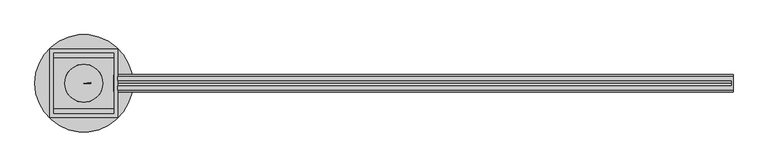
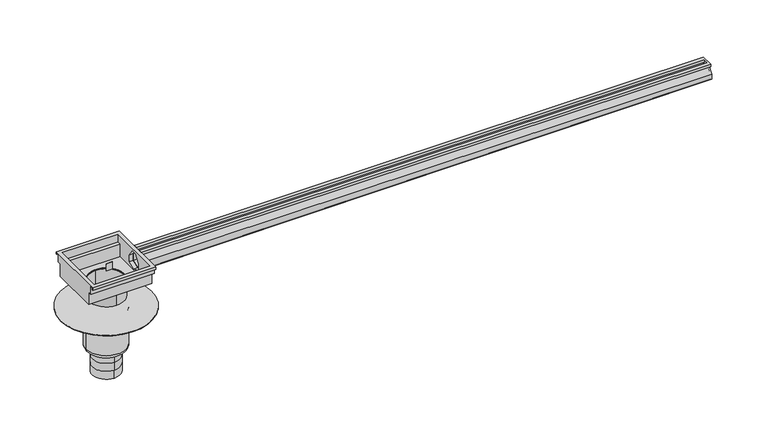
"""IFC4 building model written with IfcOpenShell, lengths in millimetres: sanitary terminal geometry, PF_SS_WPB_Modul 20 : End outlet with vertical siphon box."""

from ifc_helpers import new_model, si_unit, point, frame, frame_2d, origin, origin_2d, place, context, project, spatial, polyline, circle_curve, ellipse_curve, trimmed, segment, composite_curve, outline, extrude, faceted_brep, source, transform, mapped, element, save
from ifc_brep_helpers import plane_surface, cylinder_surface, revolved_surface, advanced_brep


def sanitary_terminal_ecf56019(model_context):
    return source(origin(), model_context, "Body", "SolidModel", [
        advanced_brep(
        [(0.0, 55.0, -464.0), (0.0, -55.0, -464.0), (0.0, 55.0, -431.0), (0.0, -55.0, -431.0), (0.0, 55.0, -398.0), (0.0, -55.0, -398.0), (0.0, -55.0, -365.0), (-55.0, 0.0, -365.0), (0.0, 55.0, -365.0), (55.0, 0.0, -365.0), (-78.5, 0.0, -348.5), (78.5, 0.0, -348.5), (78.5, 0.0, -196.0), (-78.5, 0.0, -196.0), (-62.0, 0.0, -365.0), (62.0, 0.0, -365.0), (179.0, 0.0, -196.0), (-179.0, 0.0, -196.0), (179.0, 0.0, -194.0), (-179.0, 0.0, -194.0)],
        [
            (0, 1, circle_curve(frame((0.0, 0.0, -464.0), z_axis=(0.0, 0.0, -1.0), x_axis=(0.0, -1.0, 0.0)), 55.0)),
            (1, 0, circle_curve(frame((0.0, 0.0, -464.0), z_axis=(0.0, 0.0, -1.0), x_axis=(0.0, -1.0, 0.0)), 55.0)),
            (0, 2),
            (2, 3, circle_curve(frame((0.0, 0.0, -431.0), z_axis=(0.0, 0.0, -1.0), x_axis=(0.0, -1.0, 0.0)), 55.0)),
            (3, 1),
            (3, 2, circle_curve(frame((0.0, 0.0, -431.0), z_axis=(0.0, 0.0, -1.0), x_axis=(0.0, -1.0, 0.0)), 55.0)),
            (4, 2),
            (3, 5),
            (5, 4, circle_curve(frame((0.0, 0.0, -398.0), z_axis=(0.0, 0.0, -1.0), x_axis=(-1.0, 0.0, 0.0)), 55.0)),
            (4, 5, circle_curve(frame((0.0, 0.0, -398.0), z_axis=(0.0, 0.0, -1.0), x_axis=(1.0, 0.0, 0.0)), 55.0)),
            (5, 6),
            (6, 7, circle_curve(frame((0.0, 0.0, -365.0), z_axis=(0.0, 0.0, -1.0), x_axis=(0.0, -1.0, 0.0)), 55.0)),
            (7, 8, circle_curve(frame((0.0, 0.0, -365.0), z_axis=(0.0, 0.0, -1.0), x_axis=(0.0, -1.0, 0.0)), 55.0)),
            (8, 4),
            (8, 9, circle_curve(frame((0.0, 0.0, -365.0), z_axis=(0.0, 0.0, -1.0), x_axis=(0.0, -1.0, 0.0)), 55.0)),
            (9, 6, circle_curve(frame((0.0, 0.0, -365.0), z_axis=(0.0, 0.0, -1.0), x_axis=(0.0, -1.0, 0.0)), 55.0)),
            (10, 11, circle_curve(frame((0.0, 0.0, -348.5), z_axis=(0.0, 0.0, 1.0), x_axis=(1.0, 0.0, 0.0)), 78.5)),
            (11, 12),
            (12, 13, circle_curve(frame((0.0, 0.0, -196.0), z_axis=(0.0, 0.0, -1.0), x_axis=(1.0, 0.0, 0.0)), 78.5)),
            (13, 10),
            (11, 10, circle_curve(frame((0.0, 0.0, -348.5), z_axis=(0.0, 0.0, 1.0), x_axis=(1.0, 0.0, 0.0)), 78.5)),
            (13, 12, circle_curve(frame((0.0, 0.0, -196.0), z_axis=(0.0, 0.0, -1.0), x_axis=(1.0, 0.0, 0.0)), 78.5)),
            (10, 14, circle_curve(frame((-62.0, 0.0, -348.5), z_axis=(0.0, -1.0, 0.0), x_axis=(1.0, 0.0, 0.0)), 16.5)),
            (14, 15, circle_curve(frame((0.0, 0.0, -365.0), z_axis=(0.0, 0.0, 1.0), x_axis=(1.0, 0.0, 0.0)), 62.0)),
            (15, 11, circle_curve(frame((62.0, 0.0, -348.5), z_axis=(0.0, -1.0, 0.0), x_axis=(-1.0, 0.0, 0.0)), 16.5)),
            (15, 14, circle_curve(frame((0.0, 0.0, -365.0), z_axis=(0.0, 0.0, 1.0), x_axis=(1.0, 0.0, 0.0)), 62.0)),
            (14, 7),
            (9, 15),
            (16, 17, circle_curve(frame((0.0, 0.0, -196.0), z_axis=(0.0, 0.0, -1.0), x_axis=(-1.0, 0.0, 0.0)), 179.0)),
            (17, 16, circle_curve(frame((0.0, 0.0, -196.0), z_axis=(0.0, 0.0, -1.0), x_axis=(-1.0, 0.0, 0.0)), 179.0)),
            (18, 19, circle_curve(frame((0.0, 0.0, -194.0), z_axis=(0.0, 0.0, 1.0), x_axis=(-1.0, 0.0, 0.0)), 179.0)),
            (19, 18, circle_curve(frame((0.0, 0.0, -194.0), z_axis=(0.0, 0.0, 1.0), x_axis=(-1.0, 0.0, 0.0)), 179.0)),
            (17, 19),
            (18, 16),
        ],
        [
            plane_surface(frame((0.0, -55.0, -464.0), z_axis=(0.0, 0.0, -1.0), x_axis=(-1.0, 0.0, 0.0))),
            cylinder_surface(frame((0.0, 0.0, -431.0), z_axis=(0.0, 0.0, -1.0), x_axis=(0.0, -1.0, 0.0)), 55.0),
            cylinder_surface(frame((0.0, 0.0, -398.0), z_axis=(0.0, 0.0, -1.0), x_axis=(-1.0, 0.0, 0.0)), 55.0),
            cylinder_surface(frame((0.0, 0.0, -398.0), z_axis=(0.0, 0.0, -1.0), x_axis=(1.0, 0.0, 0.0)), 55.0),
            cylinder_surface(frame((0.0, 0.0, -365.0), z_axis=(0.0, 0.0, -1.0), x_axis=(0.0, -1.0, 0.0)), 55.0),
            cylinder_surface(frame((0.0, 0.0, -134.0), z_axis=(0.0, 0.0, -1.0), x_axis=(1.0, 0.0, 0.0)), 78.5),
            revolved_surface(trimmed(ellipse_curve(frame((62.0, 0.0, -348.5), z_axis=(0.0, 1.0, 0.0), x_axis=(-1.0, 0.0, 0.0)), 16.5, 16.5), [point((78.5, 0.0, -348.5))], [point((62.0, 0.0, -365.0))], True, "CARTESIAN"), (0.0, 0.0, -134.0), (0.0, 0.0, -1.0)),
            plane_surface(frame((0.0, 0.0, -365.0), z_axis=(0.0, 0.0, -1.0), x_axis=(1.0, 0.0, 0.0))),
            plane_surface(frame((-179.0, 0.0, -196.0), z_axis=(0.0, 0.0, -1.0), x_axis=(0.0, 1.0, 0.0))),
            plane_surface(frame((-179.0, 0.0, -194.0), z_axis=(0.0, 0.0, 1.0), x_axis=(0.0, -1.0, 0.0))),
            cylinder_surface(frame((0.0, 0.0, -196.0), z_axis=(0.0, 0.0, 1.0), x_axis=(-1.0, 0.0, 0.0)), 179.0),
        ],
        [
            (0, [[1, 2]]),
            (1, [[-1, 3, 4, 5]]),
            (1, [[-2, -5, 6, -3]]),
            (2, [[7, -6, 8, 9]]),
            (3, [[-7, 10, -8, -4]]),
            (4, [[11, 12, 13, 14, -9]]),
            (4, [[-11, -10, -14, 15, 16]]),
            (5, [[17, 18, 19, 20]]),
            (5, [[-18, 21, -20, 22]]),
            (6, [[-17, 23, 24, 25]]),
            (6, [[-21, -25, 26, -23]]),
            (7, [[-24, 27, -12, -16, 28]]),
            (7, [[-26, -28, -15, -13, -27]]),
            (8, [[29, 30], [-19, -22]]),
            (9, [[31, 32]]),
            (10, [[-30, 33, -31, 34]]),
            (10, [[-29, -34, -32, -33]]),
        ],
    ),
        extrude(outline(composite_curve([segment(polyline([(-365.0, 0.0), (-365.0, 20.0)]), True, "CONTINUOUS"), segment(trimmed(circle_curve(frame_2d((-365.0, 0.0)), 20.0), [point((-365.0, 20.0))], [point((-363.2568851, 19.923894))], False, "CARTESIAN"), True, "CONTINUOUS"), segment(polyline([(-363.2568851, 19.923894), (-365.0, 0.0)]), True, "CONTINUOUS")], self_intersect=False)), frame((0.0, -20.0, 0.0), z_axis=(0.0, 1.0, 0.0), x_axis=(0.0, 0.0, 1.0)), (0.0, 0.0, 1.0), 20.0),
        faceted_brep([(125.0, 30.5, -66.4857305), (125.0, 30.5, -38.2158294), (125.0, 10.0, -10.0), (125.0, 10.0, 0.0), (125.0, 24.543531, 0.0), (125.0, 24.543531, -10.0), (125.0, 23.043531, -10.0), (125.0, 23.043531, -1.5), (125.0, 11.5, -1.5), (125.0, 11.5, -9.5126205), (125.0, 32.0, -37.7284498), (125.0, 32.0, -67.5070441), (125.0, 0.0, -80.1121794), (125.0, -32.0, -67.5070441), (125.0, -32.0, -37.7284498), (125.0, -11.5, -9.5126205), (125.0, -11.5, -1.5), (125.0, -23.5, -1.5), (125.0, -23.5, -10.0), (125.0, -25.0, -10.0), (125.0, -25.0, 0.0), (125.0, -10.0, 0.0), (125.0, -10.0, -10.0), (125.0, -30.5, -38.2158294), (125.0, -30.5, -66.4857305), (125.0, 0.0, -78.5), (2373.0, 0.0, -68.5), (2373.0, 30.5, -56.4857305), (2373.0, -30.5, -56.4857305), (2373.0, -30.5, -38.2158294), (2373.0, -10.0, -10.0), (2373.0, -10.0, 0.0), (2378.0, -25.0, 0.0), (2378.0, 24.543531, 0.0), (2373.0, 10.0, 0.0), (2378.0, -25.0, -10.0), (2378.0, -23.5, -10.0), (2378.0, -23.5, -1.5), (2378.0, -11.5, -1.5), (2378.0, -11.5, -9.5126205), (2378.0, -32.0, -37.7284498), (2373.0, -32.0, -57.5070441), (2378.0, -32.0, -57.5070441), (2373.0, 0.0, -70.1121794), (2373.0, 32.0, -57.5070441), (2378.0, 32.0, -37.7284498), (2378.0, 32.0, -57.5070441), (2378.0, 11.5, -9.5126205), (2378.0, 11.5, -1.5), (2378.0, 23.043531, -1.5), (2378.0, 23.043531, -10.0), (2378.0, 24.543531, -10.0), (2373.0, 10.0, -10.0), (2373.0, 30.5, -38.2158294), (2378.0, 0.0, -70.1121794)], [[[0, 1, 2, 3, 4, 5, 6, 7, 8, 9, 10, 11, 12, 13, 14, 15, 16, 17, 18, 19, 20, 21, 22, 23, 24, 25]], [[0, 25, 26, 27]], [[25, 24, 28, 26]], [[24, 23, 29, 28]], [[23, 22, 30, 29]], [[22, 21, 31, 30]], [[21, 20, 32, 33, 4, 3, 34, 31]], [[32, 20, 19, 35]], [[35, 19, 18, 36]], [[36, 18, 17, 37]], [[37, 17, 16, 38]], [[38, 16, 15, 39]], [[39, 15, 14, 40]], [[40, 14, 13, 41, 42]], [[13, 12, 43, 41]], [[12, 11, 44, 43]], [[11, 10, 45, 46, 44]], [[45, 10, 9, 47]], [[47, 9, 8, 48]], [[48, 8, 7, 49]], [[49, 7, 6, 50]], [[50, 6, 5, 51]], [[51, 5, 4, 33]], [[3, 2, 52, 34]], [[2, 1, 53, 52]], [[1, 0, 27, 53]], [[38, 39, 40, 42, 54, 46, 45, 47, 48, 49, 50, 51, 33, 32, 35, 36, 37]], [[31, 34, 52, 53, 27, 26, 28, 29, 30]], [[54, 42, 41, 43]], [[46, 54, 43, 44]]]),
        extrude(outline(composite_curve([segment(trimmed(circle_curve(origin_2d(), 71.0), [point((0.0, 71.0))], [point((0.0, -71.0))], False, "CARTESIAN"), True, "CONTINUOUS"), segment(trimmed(circle_curve(origin_2d(), 71.0), [point((0.0, -71.0))], [point((0.0, 71.0))], False, "CARTESIAN"), True, "CONTINUOUS")], self_intersect=False), holes=[composite_curve([segment(trimmed(circle_curve(origin_2d(), 69.5), [point((0.0, 69.5))], [point((0.0, -69.5))], True, "CARTESIAN"), True, "CONTINUOUS"), segment(trimmed(circle_curve(origin_2d(), 69.5), [point((0.0, -69.5))], [point((0.0, 69.5))], True, "CARTESIAN"), True, "CONTINUOUS")], self_intersect=False)]), frame((0.0, 0.0, -149.0), z_axis=(0.0, 0.0, 1.0), x_axis=(1.0, 0.0, 0.0)), (0.0, 0.0, 1.0), 60.0),
        extrude(outline(composite_curve([segment(trimmed(circle_curve(origin_2d(), 71.0), [point((0.0, 71.0))], [point((0.0, -71.0))], False, "CARTESIAN"), True, "CONTINUOUS"), segment(trimmed(circle_curve(origin_2d(), 71.0), [point((0.0, -71.0))], [point((0.0, 71.0))], False, "CARTESIAN"), True, "CONTINUOUS")], self_intersect=False), holes=[composite_curve([segment(trimmed(circle_curve(origin_2d(), 69.5), [point((69.5, 0.0))], [point((-69.5, 0.0))], True, "CARTESIAN"), True, "CONTINUOUS"), segment(trimmed(circle_curve(origin_2d(), 69.5), [point((-69.5, 0.0))], [point((69.5, 0.0))], True, "CARTESIAN"), True, "CONTINUOUS")], self_intersect=False)]), frame((0.0, 0.0, -89.0), z_axis=(0.0, 0.0, 1.0), x_axis=(1.0, 0.0, 0.0)), (0.0, 0.0, 1.0), 3.0),
        advanced_brep(
        [(125.0, -125.0, 0.0), (125.0, -125.0, -10.0), (125.0, -123.0, -10.0), (125.0, -123.0, -2.0), (125.0, -112.0, -2.0), (125.0, -112.0, -34.0), (125.0, -97.0, -34.0), (125.0, -97.0, -86.0), (125.0, 97.0, -86.0), (125.0, 97.0, -34.0), (125.0, 112.0, -34.0), (125.0, 112.0, -2.0), (125.0, 123.0, -2.0), (125.0, 123.0, -10.0), (125.0, 125.0, -10.0), (125.0, 125.0, 0.0), (125.0, -30.5, -38.2158294), (125.0, -10.0, -10.0), (125.0, 10.0, -10.0), (125.0, 30.5, -38.2158294), (125.0, 30.5, -66.4857305), (125.0, 0.0, -78.5), (125.0, -30.5, -66.4857305), (-125.0, 125.0, 0.0), (-125.0, 125.0, -10.0), (-125.0, 123.0, -10.0), (-125.0, 123.0, -2.0), (-125.0, 112.0, -2.0), (-125.0, 112.0, -34.0), (-125.0, 97.0, -34.0), (-125.0, 97.0, -86.0), (-125.0, -97.0, -86.0), (-125.0, -97.0, -34.0), (-125.0, -112.0, -34.0), (-125.0, -112.0, -2.0), (-125.0, -123.0, -2.0), (-125.0, -123.0, -10.0), (-125.0, -125.0, -10.0), (-125.0, -125.0, 0.0), (69.5, 0.0, -86.0), (-69.5, 0.0, -86.0), (110.0, -110.0, 0.0), (-110.0, -110.0, 0.0), (-110.0, 110.0, 0.0), (110.0, 110.0, 0.0), (110.0, 110.0, -32.0), (-110.0, 110.0, -32.0), (110.0, -110.0, -32.0), (-110.0, -110.0, -32.0), (110.0, 95.0, -32.0), (-110.0, 95.0, -32.0), (110.0, 95.0, -84.0), (-110.0, 95.0, -84.0), (110.0, -95.0, -84.0), (-110.0, -95.0, -84.0), (-69.5, 0.0, -84.0), (69.5, 0.0, -84.0), (110.0, -95.0, -32.0), (-110.0, -95.0, -32.0), (110.0, -10.0, -10.0), (110.0, -30.5, -38.2158294), (110.0, -30.5, -66.4857305), (110.0, 0.0, -78.5), (110.0, 30.5, -66.4857305), (110.0, 30.5, -38.2158294), (110.0, 10.0, -10.0)],
        [
            (0, 1),
            (1, 2),
            (2, 3),
            (3, 4),
            (4, 5),
            (5, 6),
            (6, 7),
            (7, 8),
            (8, 9),
            (9, 10),
            (10, 11),
            (11, 12),
            (12, 13),
            (13, 14),
            (14, 15),
            (15, 0),
            (16, 17),
            (17, 18),
            (18, 19),
            (19, 20),
            (20, 21),
            (21, 22),
            (22, 16),
            (23, 24),
            (24, 25),
            (25, 26),
            (26, 27),
            (27, 28),
            (28, 29),
            (29, 30),
            (30, 31),
            (31, 32),
            (32, 33),
            (33, 34),
            (34, 35),
            (35, 36),
            (36, 37),
            (37, 38),
            (38, 23),
            (0, 38),
            (37, 1),
            (36, 2),
            (35, 3),
            (34, 4),
            (33, 5),
            (7, 31),
            (30, 8),
            (39, 40, circle_curve(frame((0.0, 0.0, -86.0), z_axis=(0.0, 0.0, 1.0), x_axis=(1.0, 0.0, 0.0)), 69.5)),
            (40, 39, circle_curve(frame((0.0, 0.0, -86.0), z_axis=(0.0, 0.0, 1.0), x_axis=(1.0, 0.0, 0.0)), 69.5)),
            (10, 28),
            (27, 11),
            (26, 12),
            (25, 13),
            (24, 14),
            (23, 15),
            (41, 42),
            (42, 43),
            (43, 44),
            (44, 41),
            (45, 44),
            (43, 46),
            (46, 45),
            (41, 47),
            (47, 48),
            (48, 42),
            (32, 6),
            (29, 9),
            (49, 45),
            (46, 50),
            (50, 49),
            (51, 49),
            (50, 52),
            (52, 51),
            (53, 51),
            (52, 54),
            (54, 53),
            (55, 56, circle_curve(frame((0.0, 0.0, -84.0), z_axis=(0.0, 0.0, -1.0), x_axis=(1.0, 0.0, 0.0)), 69.5)),
            (56, 55, circle_curve(frame((0.0, 0.0, -84.0), z_axis=(0.0, 0.0, -1.0), x_axis=(1.0, 0.0, 0.0)), 69.5)),
            (57, 53),
            (54, 58),
            (58, 57),
            (47, 57),
            (58, 48),
            (55, 40),
            (39, 56),
            (59, 60),
            (60, 61),
            (61, 62),
            (62, 63),
            (63, 64),
            (64, 65),
            (65, 59),
            (59, 17),
            (16, 60),
            (65, 18),
            (64, 19),
            (63, 20),
            (62, 21),
            (61, 22),
        ],
        [
            plane_surface(frame((125.0, -125.0, -10.0), z_axis=(1.0, 0.0, 0.0), x_axis=(0.0, 0.0, -1.0))),
            plane_surface(frame((-125.0, -125.0, -10.0), z_axis=(-1.0, 0.0, 0.0), x_axis=(0.0, 0.0, 1.0))),
            plane_surface(frame((125.0, -125.0, 0.0), z_axis=(0.0, -1.0, 0.0), x_axis=(-1.0, 0.0, 0.0))),
            plane_surface(frame((125.0, -125.0, -10.0), z_axis=(0.0, 0.0, -1.0), x_axis=(-1.0, 0.0, 0.0))),
            plane_surface(frame((125.0, -123.0, -10.0), z_axis=(0.0, 1.0, 0.0), x_axis=(-1.0, 0.0, 0.0))),
            plane_surface(frame((125.0, -123.0, -2.0), z_axis=(0.0, 0.0, -1.0), x_axis=(-1.0, 0.0, 0.0))),
            plane_surface(frame((125.0, -112.0, -2.0), z_axis=(0.0, -1.0, 0.0), x_axis=(-1.0, 0.0, 0.0))),
            plane_surface(frame((125.0, -97.0, -86.0), z_axis=(0.0, 0.0, -1.0), x_axis=(-1.0, 0.0, 0.0))),
            plane_surface(frame((125.0, 112.0, -34.0), z_axis=(0.0, 1.0, 0.0), x_axis=(-1.0, 0.0, 0.0))),
            plane_surface(frame((125.0, 112.0, -2.0), z_axis=(0.0, 0.0, -1.0), x_axis=(-1.0, 0.0, 0.0))),
            plane_surface(frame((125.0, 123.0, -2.0), z_axis=(0.0, -1.0, 0.0), x_axis=(-1.0, 0.0, 0.0))),
            plane_surface(frame((125.0, 123.0, -10.0), z_axis=(0.0, 0.0, -1.0), x_axis=(-1.0, 0.0, 0.0))),
            plane_surface(frame((125.0, 125.0, -10.0), z_axis=(0.0, 1.0, 0.0), x_axis=(-1.0, 0.0, 0.0))),
            plane_surface(frame((125.0, 125.0, 0.0), z_axis=(0.0, 0.0, 1.0), x_axis=(-1.0, 0.0, 0.0))),
            plane_surface(frame((125.0, 110.0, 0.0), z_axis=(0.0, -1.0, 0.0), x_axis=(-1.0, 0.0, 0.0))),
            plane_surface(frame((125.0, -110.0, -32.0), z_axis=(0.0, 1.0, 0.0), x_axis=(-1.0, 0.0, 0.0))),
            plane_surface(frame((125.0, -112.0, -34.0), z_axis=(0.0, 0.0, -1.0), x_axis=(-1.0, 0.0, 0.0))),
            plane_surface(frame((125.0, -97.0, -34.0), z_axis=(0.0, -1.0, 0.0), x_axis=(-1.0, 0.0, 0.0))),
            plane_surface(frame((125.0, 97.0, -86.0), z_axis=(0.0, 1.0, 0.0), x_axis=(-1.0, 0.0, 0.0))),
            plane_surface(frame((125.0, 97.0, -34.0), z_axis=(0.0, 0.0, -1.0), x_axis=(-1.0, 0.0, 0.0))),
            plane_surface(frame((125.0, 110.0, -32.0), z_axis=(0.0, 0.0, 1.0), x_axis=(-1.0, 0.0, 0.0))),
            plane_surface(frame((125.0, 95.0, -32.0), z_axis=(0.0, -1.0, 0.0), x_axis=(-1.0, 0.0, 0.0))),
            plane_surface(frame((125.0, 95.0, -84.0), z_axis=(0.0, 0.0, 1.0), x_axis=(-1.0, 0.0, 0.0))),
            plane_surface(frame((125.0, -95.0, -84.0), z_axis=(0.0, 1.0, 0.0), x_axis=(-1.0, 0.0, 0.0))),
            plane_surface(frame((125.0, -95.0, -32.0), z_axis=(0.0, 0.0, 1.0), x_axis=(-1.0, 0.0, 0.0))),
            revolved_surface(polyline([(69.5, 0.0, -86.0), (69.5, 0.0, -84.0)]), (0.0, 0.0, -84.0), (0.0, 0.0, -1.0)),
            plane_surface(frame((110.0, -110.0, 0.0), z_axis=(-1.0, 0.0, 0.0), x_axis=(0.0, 1.0, 0.0))),
            plane_surface(frame((110.0, -30.5, -38.2158294), z_axis=(0.0, 0.8090169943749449, -0.5877852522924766), x_axis=(1.0, 0.0, 0.0))),
            plane_surface(frame((110.0, -10.0, -10.0), z_axis=(0.0, 0.0, -1.0), x_axis=(1.0, 0.0, 0.0))),
            plane_surface(frame((110.0, 10.0, -10.0), z_axis=(0.0, -0.8090169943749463, -0.5877852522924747), x_axis=(1.0, 0.0, 0.0))),
            plane_surface(frame((110.0, 30.5, -38.2158294), z_axis=(0.0, -1.0, 0.0), x_axis=(1.0, 0.0, 0.0))),
            plane_surface(frame((110.0, 30.5, -66.4857305), z_axis=(0.0, -0.36650122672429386, 0.9304175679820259), x_axis=(1.0, 0.0, 0.0))),
            plane_surface(frame((110.0, 0.0, -78.5), z_axis=(0.0, 0.36650122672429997, 0.9304175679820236), x_axis=(1.0, 0.0, 0.0))),
            plane_surface(frame((110.0, -30.5, -66.4857305), z_axis=(0.0, 1.0, 0.0), x_axis=(1.0, 0.0, 0.0))),
            plane_surface(frame((-110.0, -110.0, 0.0), z_axis=(1.0, 0.0, 0.0), x_axis=(0.0, 0.0, -1.0))),
        ],
        [
            (0, [[1, 2, 3, 4, 5, 6, 7, 8, 9, 10, 11, 12, 13, 14, 15, 16], [17, 18, 19, 20, 21, 22, 23]]),
            (1, [[24, 25, 26, 27, 28, 29, 30, 31, 32, 33, 34, 35, 36, 37, 38, 39]]),
            (2, [[-1, 40, -38, 41]]),
            (3, [[-2, -41, -37, 42]]),
            (4, [[-3, -42, -36, 43]]),
            (5, [[-4, -43, -35, 44]]),
            (6, [[-5, -44, -34, 45]]),
            (7, [[-8, 46, -31, 47], [48, 49]]),
            (8, [[-11, 50, -28, 51]]),
            (9, [[-12, -51, -27, 52]]),
            (10, [[-13, -52, -26, 53]]),
            (11, [[-14, -53, -25, 54]]),
            (12, [[-15, -54, -24, 55]]),
            (13, [[-39, -40, -16, -55], [56, 57, 58, 59]]),
            (14, [[60, -58, 61, 62]]),
            (15, [[63, 64, 65, -56]]),
            (16, [[-6, -45, -33, 66]]),
            (17, [[-7, -66, -32, -46]]),
            (18, [[-9, -47, -30, 67]]),
            (19, [[-10, -67, -29, -50]]),
            (20, [[68, -62, 69, 70]]),
            (21, [[71, -70, 72, 73]]),
            (22, [[74, -73, 75, 76], [77, 78]]),
            (23, [[79, -76, 80, 81]]),
            (24, [[82, -81, 83, -64]]),
            (25, [[84, -48, 85, -77]]),
            (25, [[-84, -78, -85, -49]]),
            (26, [[-59, -60, -68, -71, -74, -79, -82, -63], [86, 87, 88, 89, 90, 91, 92]]),
            (27, [[93, -17, 94, -86]]),
            (28, [[-93, -92, 95, -18]]),
            (29, [[-95, -91, 96, -19]]),
            (30, [[-96, -90, 97, -20]]),
            (31, [[-97, -89, 98, -21]]),
            (32, [[-98, -88, 99, -22]]),
            (33, [[-94, -23, -99, -87]]),
            (34, [[-57, -65, -83, -80, -75, -72, -69, -61]]),
        ],
    ),
        extrude(outline(composite_curve([segment(trimmed(circle_curve(origin_2d(), 25.0), [point((24.9048675, 2.1788936))], [point((25.0, 0.0))], False, "CARTESIAN"), True, "CONTINUOUS"), segment(polyline([(25.0, 0.0), (0.0, 0.0), (24.9048675, 2.1788936)]), True, "CONTINUOUS")], self_intersect=False)), frame((0.0, 0.0, -49.0844435), z_axis=(0.0, 0.0, 1.0), x_axis=(1.0, 0.0, 0.0)), (0.0, 0.0, 1.0), 30.0),
    ])


if __name__ == "__main__":
    model = new_model("IFC4")
    model_context = context("Model", 3, world=origin())
    ifc_project = project(units=[si_unit("LENGTHUNIT", "METRE", prefix="MILLI")], contexts=[model_context])
    site = spatial("IfcSite", under=ifc_project)
    building = spatial("IfcBuilding", under=site)
    placement = place(None, origin())
    sanitary_terminal_shape = sanitary_terminal_ecf56019(model_context)
    element("IfcSanitaryTerminal", 1, ObjectType="PF_SS_WPB_Modul 20 : End outlet with vertical siphon box", at=placement, inside=building, context=model_context, shape_type="MappedRepresentation", body=[
        mapped(sanitary_terminal_shape, transform((0.0, 0.0, 0.0), x_axis=(1.0, 0.0, 0.0), y_axis=(0.0, 1.0, 0.0), z_axis=(0.0, 0.0, 1.0))),
    ])
    save(model, "model.ifc")
